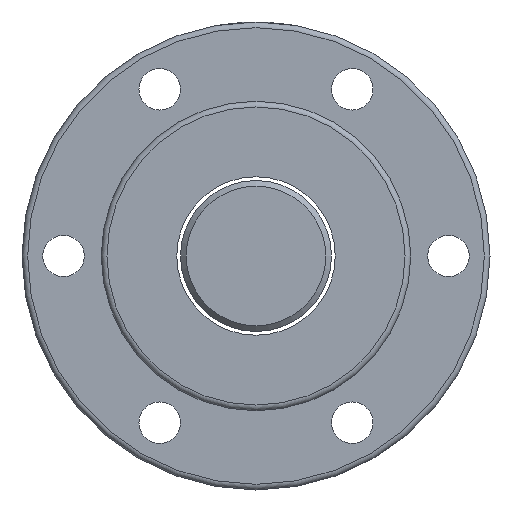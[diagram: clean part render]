
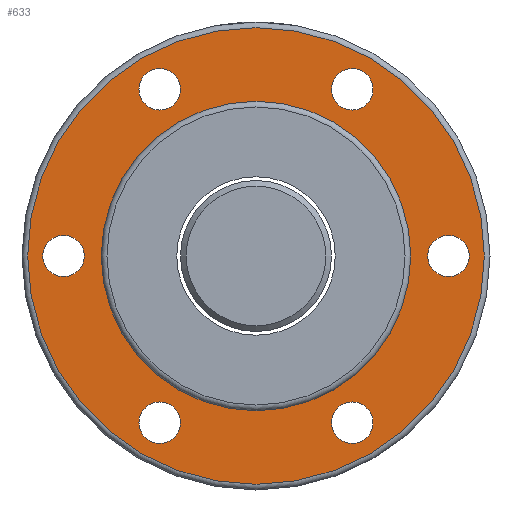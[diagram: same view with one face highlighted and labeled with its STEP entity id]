
A CAD part, left-side view. The second image highlights one B-rep face of the part: STEP entity #633.
In plain terms, the highlighted planar face has unit normal (-1, 0, 0).
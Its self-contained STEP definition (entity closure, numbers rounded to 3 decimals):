
#78=PLANE('',#747);
#174=ORIENTED_EDGE('',*,*,#270,.T.);
#175=ORIENTED_EDGE('',*,*,#269,.F.);
#176=ORIENTED_EDGE('',*,*,#263,.T.);
#177=ORIENTED_EDGE('',*,*,#259,.T.);
#178=ORIENTED_EDGE('',*,*,#255,.T.);
#179=ORIENTED_EDGE('',*,*,#251,.T.);
#180=ORIENTED_EDGE('',*,*,#247,.T.);
#181=ORIENTED_EDGE('',*,*,#243,.T.);
#243=EDGE_CURVE('',#304,#304,#356,.T.);
#247=EDGE_CURVE('',#308,#308,#360,.T.);
#251=EDGE_CURVE('',#312,#312,#364,.T.);
#255=EDGE_CURVE('',#316,#316,#368,.T.);
#259=EDGE_CURVE('',#320,#320,#372,.T.);
#263=EDGE_CURVE('',#324,#324,#376,.T.);
#269=EDGE_CURVE('',#330,#330,#382,.T.);
#270=EDGE_CURVE('',#331,#331,#383,.T.);
#304=VERTEX_POINT('',#1041);
#308=VERTEX_POINT('',#1052);
#312=VERTEX_POINT('',#1063);
#316=VERTEX_POINT('',#1074);
#320=VERTEX_POINT('',#1085);
#324=VERTEX_POINT('',#1096);
#330=VERTEX_POINT('',#1113);
#331=VERTEX_POINT('',#1116);
#356=CIRCLE('',#700,5.5);
#360=CIRCLE('',#707,5.5);
#364=CIRCLE('',#714,5.5);
#368=CIRCLE('',#721,5.5);
#372=CIRCLE('',#728,5.5);
#376=CIRCLE('',#735,5.5);
#382=CIRCLE('',#746,41.);
#383=CIRCLE('',#748,60.5);
#459=EDGE_LOOP('',(#174));
#460=EDGE_LOOP('',(#175));
#461=EDGE_LOOP('',(#176));
#462=EDGE_LOOP('',(#177));
#463=EDGE_LOOP('',(#178));
#464=EDGE_LOOP('',(#179));
#465=EDGE_LOOP('',(#180));
#466=EDGE_LOOP('',(#181));
#562=FACE_BOUND('',#459,.T.);
#563=FACE_BOUND('',#460,.T.);
#564=FACE_BOUND('',#461,.T.);
#565=FACE_BOUND('',#462,.T.);
#566=FACE_BOUND('',#463,.T.);
#567=FACE_BOUND('',#464,.T.);
#568=FACE_BOUND('',#465,.T.);
#569=FACE_BOUND('',#466,.T.);
#633=ADVANCED_FACE('',(#562,#563,#564,#565,#566,#567,#568,#569),#78,.F.);
#700=AXIS2_PLACEMENT_3D('',#1040,#824,#825);
#707=AXIS2_PLACEMENT_3D('',#1051,#838,#839);
#714=AXIS2_PLACEMENT_3D('',#1062,#852,#853);
#721=AXIS2_PLACEMENT_3D('',#1073,#866,#867);
#728=AXIS2_PLACEMENT_3D('',#1084,#880,#881);
#735=AXIS2_PLACEMENT_3D('',#1095,#894,#895);
#746=AXIS2_PLACEMENT_3D('',#1112,#916,#917);
#747=AXIS2_PLACEMENT_3D('',#1114,#918,#919);
#748=AXIS2_PLACEMENT_3D('',#1115,#920,#921);
#824=DIRECTION('',(1.,0.,0.));
#825=DIRECTION('',(0.,0.,-1.));
#838=DIRECTION('',(1.,0.,0.));
#839=DIRECTION('',(0.,0.,-1.));
#852=DIRECTION('',(1.,0.,0.));
#853=DIRECTION('',(0.,0.,-1.));
#866=DIRECTION('',(1.,0.,0.));
#867=DIRECTION('',(0.,0.,-1.));
#880=DIRECTION('',(1.,0.,0.));
#881=DIRECTION('',(0.,0.,-1.));
#894=DIRECTION('',(1.,0.,0.));
#895=DIRECTION('',(0.,0.,-1.));
#916=DIRECTION('',(-1.,0.,0.));
#917=DIRECTION('',(0.,0.,1.));
#918=DIRECTION('',(1.,0.,0.));
#919=DIRECTION('',(0.,0.,-1.));
#920=DIRECTION('',(-1.,0.,0.));
#921=DIRECTION('',(0.,0.,1.));
#1040=CARTESIAN_POINT('',(-33.,51.,0.));
#1041=CARTESIAN_POINT('',(-33.,51.,-5.5));
#1051=CARTESIAN_POINT('',(-33.,-51.,0.));
#1052=CARTESIAN_POINT('',(-33.,-51.,-5.5));
#1062=CARTESIAN_POINT('',(-33.,-25.5,-44.167));
#1063=CARTESIAN_POINT('',(-33.,-25.5,-49.667));
#1073=CARTESIAN_POINT('',(-33.,25.5,-44.167));
#1074=CARTESIAN_POINT('',(-33.,25.5,-49.667));
#1084=CARTESIAN_POINT('',(-33.,-25.5,44.167));
#1085=CARTESIAN_POINT('',(-33.,-25.5,38.667));
#1095=CARTESIAN_POINT('',(-33.,25.5,44.167));
#1096=CARTESIAN_POINT('',(-33.,25.5,38.667));
#1112=CARTESIAN_POINT('',(-33.,0.,0.));
#1113=CARTESIAN_POINT('',(-33.,0.,41.));
#1114=CARTESIAN_POINT('',(-33.,50.75,0.));
#1115=CARTESIAN_POINT('',(-33.,0.,0.));
#1116=CARTESIAN_POINT('',(-33.,0.,60.5));
